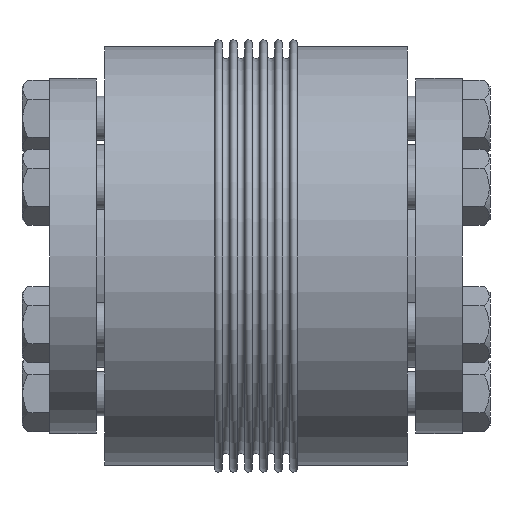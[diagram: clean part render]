
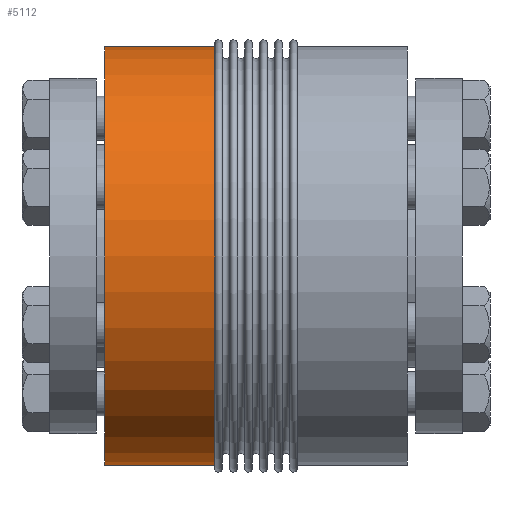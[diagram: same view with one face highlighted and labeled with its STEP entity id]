
A CAD part, front view. The second image highlights one B-rep face of the part: STEP entity #5112.
In plain terms, the highlighted cylindrical face has radius 76 mm (diameter 152 mm), a full revolution.
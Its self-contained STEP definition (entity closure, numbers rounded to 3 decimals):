
#1071=CARTESIAN_POINT('',(40.,0.,0.));
#1072=DIRECTION('',(1.,0.,0.));
#1073=DIRECTION('',(0.,0.,76.));
#1074=AXIS2_PLACEMENT_3D('',#1071,#1072,#1073);
#1075=CYLINDRICAL_SURFACE('',#1074,76.);
#4738=CARTESIAN_POINT('',(60.,0.,76.));
#4739=VERTEX_POINT('',#4738);
#4740=CARTESIAN_POINT('',(60.,0.,0.));
#4741=DIRECTION('',(1.,0.,0.));
#4742=DIRECTION('',(0.,0.,76.));
#4743=AXIS2_PLACEMENT_3D('',#4740,#4741,#4742);
#4744=CIRCLE('',#4743,76.);
#4745=EDGE_CURVE('',#4739,#4739,#4744,.T.);
#5094=CARTESIAN_POINT('',(20.,0.,76.));
#5095=VERTEX_POINT('',#5094);
#5096=CARTESIAN_POINT('',(20.,0.,0.));
#5097=DIRECTION('',(1.,0.,0.));
#5098=DIRECTION('',(0.,0.,76.));
#5099=AXIS2_PLACEMENT_3D('',#5096,#5097,#5098);
#5100=CIRCLE('',#5099,76.);
#5101=EDGE_CURVE('',#5095,#5095,#5100,.T.);
#5106=ORIENTED_EDGE('',*,*,#4745,.F.);
#5107=EDGE_LOOP('',(#5106));
#5108=FACE_BOUND('',#5107,.T.);
#5109=ORIENTED_EDGE('',*,*,#5101,.T.);
#5110=EDGE_LOOP('',(#5109));
#5111=FACE_BOUND('',#5110,.T.);
#5112=ADVANCED_FACE('',(#5108,#5111),#1075,.T.);
